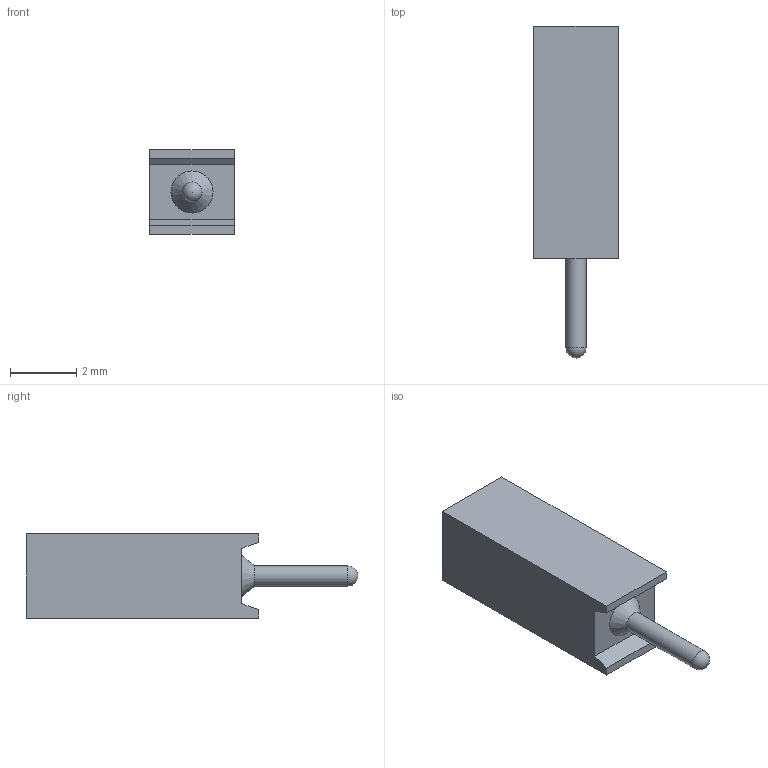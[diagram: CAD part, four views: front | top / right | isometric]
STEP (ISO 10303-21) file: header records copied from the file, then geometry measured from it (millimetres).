
FILE_DESCRIPTION(/* description */ (''),/* implementation_level */ '2;1');
FILE_NAME(/* name */ 'C:/Users/Nicholas/Downloads/FE01 v1.step',/* time_stamp */ '2021-06-05T21:20:43-07:00',/* author */ (''),/* organization */ (''),/* preprocessor_version */ 'ST-DEVELOPER v18.1',/* originating_system */ 'Autodesk Translation Framework v10.9.0.1377',/* authorisation */ '');
FILE_SCHEMA (('AUTOMOTIVE_DESIGN { 1 0 10303 214 3 1 1 }'));
Length unit declared in the file: inch
Products named in the file (1): FE01
Bounding box: 2.54 x 10.01 x 2.54 mm (x, y, z)
Volume: 36.2 mm3; surface area: 114.7 mm2
Topology: 1 solids, 1 shells, 15 faces, 37 edges, 24 vertices
Faces by surface type: plane 10, cone 2, cylinder 2, sphere 1
Full cylindrical faces by diameter (mm): 0.61 x1, 1.27 x1
Entity records: 486 total; most frequent: CARTESIAN_POINT 75, DIRECTION 74, ORIENTED_EDGE 70, EDGE_CURVE 35, LINE 28, VECTOR 28, VERTEX_POINT 24, AXIS2_PLACEMENT_3D 23
